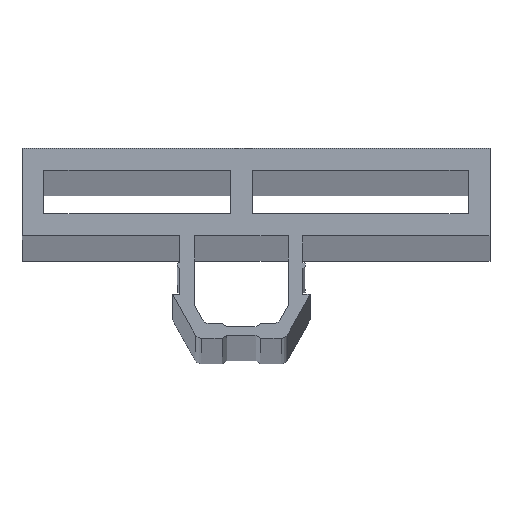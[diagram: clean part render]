
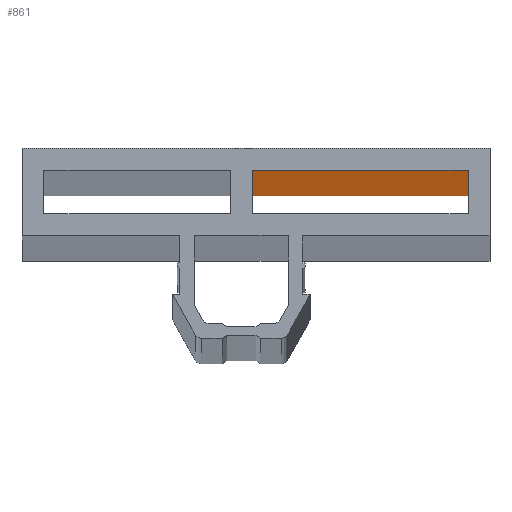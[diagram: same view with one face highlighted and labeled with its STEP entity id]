
A CAD part, top view. The second image highlights one B-rep face of the part: STEP entity #861.
In plain terms, the highlighted planar face has unit normal (0, -1, 0).
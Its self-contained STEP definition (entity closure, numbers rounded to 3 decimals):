
#41=FACE_OUTER_BOUND($,#83,.T.);
#83=EDGE_LOOP($,(#577,#578,#579,#580));
#136=LINE($,#1204,#250);
#138=LINE($,#1208,#252);
#139=LINE($,#1210,#253);
#140=LINE($,#1211,#254);
#250=VECTOR($,#973,1000.);
#252=VECTOR($,#977,14.75);
#253=VECTOR($,#978,1000.);
#254=VECTOR($,#979,14.75);
#363=VERTEX_POINT($,#1201);
#364=VERTEX_POINT($,#1203);
#365=VERTEX_POINT($,#1207);
#366=VERTEX_POINT($,#1209);
#448=EDGE_CURVE($,#363,#364,#136,.T.);
#450=EDGE_CURVE($,#365,#363,#138,.T.);
#451=EDGE_CURVE($,#365,#366,#139,.T.);
#452=EDGE_CURVE($,#364,#366,#140,.T.);
#577=ORIENTED_EDGE($,*,*,#450,.F.);
#578=ORIENTED_EDGE($,*,*,#451,.T.);
#579=ORIENTED_EDGE($,*,*,#452,.F.);
#580=ORIENTED_EDGE($,*,*,#448,.F.);
#823=PLANE($,#908);
#861=ADVANCED_FACE($,(#41),#823,.F.);
#908=AXIS2_PLACEMENT_3D($,#1206,#975,#976);
#973=DIRECTION($,(0.,0.,1.));
#975=DIRECTION('center_axis',(0.,1.,0.));
#976=DIRECTION('ref_axis',(-1.,0.,0.));
#977=DIRECTION($,(-1.,0.,0.));
#978=DIRECTION($,(0.,0.,1.));
#979=DIRECTION($,(1.,0.,0.));
#1201=CARTESIAN_POINT('',(22.515,12.614,0.));
#1203=CARTESIAN_POINT('',(22.515,12.614,1000.));
#1204=CARTESIAN_POINT($,(22.515,12.614,0.));
#1206=CARTESIAN_POINT('Origin',(37.265,12.614,0.));
#1207=CARTESIAN_POINT('',(37.265,12.614,0.));
#1208=CARTESIAN_POINT($,(29.94,12.614,0.));
#1209=CARTESIAN_POINT('',(37.265,12.614,1000.));
#1210=CARTESIAN_POINT($,(37.265,12.614,0.));
#1211=CARTESIAN_POINT($,(29.94,12.614,1000.));
